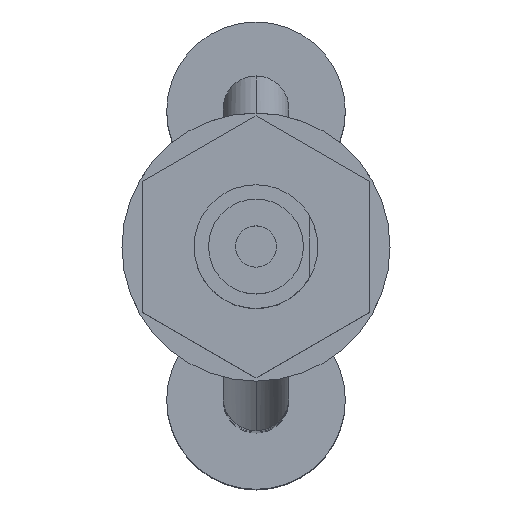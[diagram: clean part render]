
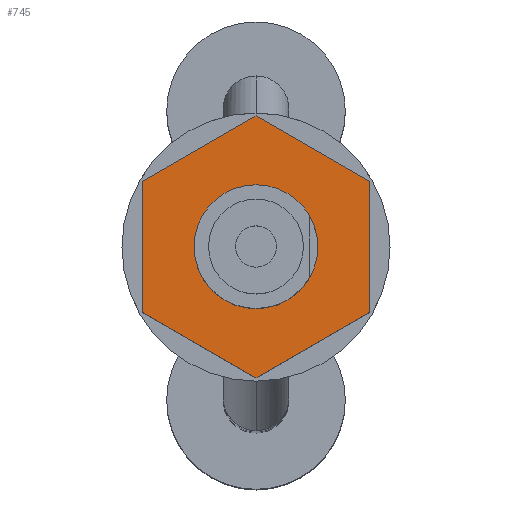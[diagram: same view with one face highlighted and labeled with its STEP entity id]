
A CAD part, top view. The second image highlights one B-rep face of the part: STEP entity #745.
In plain terms, the highlighted planar face has unit normal (0, 0, 1) as drawn and (-1, 0, 0) by its records, which use the part's own axes.
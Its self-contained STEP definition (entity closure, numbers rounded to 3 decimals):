
#667 = EDGE_CURVE ( 'NONE', #668, #669, #2203, .T. ) ;
#668 = VERTEX_POINT ( 'NONE', #2195 ) ;
#669 = VERTEX_POINT ( 'NONE', #2194 ) ;
#745 = ADVANCED_FACE ( 'NONE', ( #2270, #2269 ), #2275, .F. ) ;
#746 = EDGE_LOOP ( 'NONE', ( #747, #751, #754, #757, #760, #763 ) ) ;
#747 = ORIENTED_EDGE ( 'NONE', *, *, #748, .T. ) ;
#748 = EDGE_CURVE ( 'NONE', #749, #750, #2328, .T. ) ;
#749 = VERTEX_POINT ( 'NONE', #2324 ) ;
#750 = VERTEX_POINT ( 'NONE', #2323 ) ;
#751 = ORIENTED_EDGE ( 'NONE', *, *, #752, .T. ) ;
#752 = EDGE_CURVE ( 'NONE', #750, #753, #2322, .T. ) ;
#753 = VERTEX_POINT ( 'NONE', #2318 ) ;
#754 = ORIENTED_EDGE ( 'NONE', *, *, #755, .T. ) ;
#755 = EDGE_CURVE ( 'NONE', #753, #756, #2317, .T. ) ;
#756 = VERTEX_POINT ( 'NONE', #2313 ) ;
#757 = ORIENTED_EDGE ( 'NONE', *, *, #758, .T. ) ;
#758 = EDGE_CURVE ( 'NONE', #756, #759, #2312, .T. ) ;
#759 = VERTEX_POINT ( 'NONE', #2308 ) ;
#760 = ORIENTED_EDGE ( 'NONE', *, *, #761, .T. ) ;
#761 = EDGE_CURVE ( 'NONE', #759, #762, #2307, .T. ) ;
#762 = VERTEX_POINT ( 'NONE', #2303 ) ;
#763 = ORIENTED_EDGE ( 'NONE', *, *, #764, .T. ) ;
#764 = EDGE_CURVE ( 'NONE', #762, #749, #2302, .T. ) ;
#765 = EDGE_LOOP ( 'NONE', ( #766, #767 ) ) ;
#766 = ORIENTED_EDGE ( 'NONE', *, *, #667, .F. ) ;
#767 = ORIENTED_EDGE ( 'NONE', *, *, #768, .F. ) ;
#768 = EDGE_CURVE ( 'NONE', #669, #668, #2362, .T. ) ;
#2194 = CARTESIAN_POINT ( 'NONE',  ( 5., -1.5, 0. ) ) ;
#2195 = CARTESIAN_POINT ( 'NONE',  ( 5., 1.5, 0. ) ) ;
#2196 = DIRECTION ( 'NONE',  ( 0., -1., 0. ) ) ;
#2197 = DIRECTION ( 'NONE',  ( -1., 0., 0. ) ) ;
#2198 = CARTESIAN_POINT ( 'NONE',  ( 5., 0., 0. ) ) ;
#2199 = AXIS2_PLACEMENT_3D ( 'NONE', #2198, #2197, #2196 ) ;
#2203 = CIRCLE ( 'NONE', #2199, 1.5 ) ;
#2269 = FACE_BOUND ( 'NONE', #765, .T. ) ;
#2270 = FACE_OUTER_BOUND ( 'NONE', #746, .T. ) ;
#2275 = PLANE ( 'NONE',  #2332 ) ;
#2302 = LINE ( 'NONE', #2365, #2364 ) ;
#2303 = CARTESIAN_POINT ( 'NONE',  ( 5., -1.588, 2.75 ) ) ;
#2304 = DIRECTION ( 'NONE',  ( 0., 0.5, 0.866 ) ) ;
#2305 = VECTOR ( 'NONE', #2304, 1000. ) ;
#2306 = CARTESIAN_POINT ( 'NONE',  ( 5., -3.175, 0. ) ) ;
#2307 = LINE ( 'NONE', #2306, #2305 ) ;
#2308 = CARTESIAN_POINT ( 'NONE',  ( 5., -3.175, 0. ) ) ;
#2309 = DIRECTION ( 'NONE',  ( 0., -0.5, 0.866 ) ) ;
#2310 = VECTOR ( 'NONE', #2309, 1000. ) ;
#2311 = CARTESIAN_POINT ( 'NONE',  ( 5., -1.588, -2.75 ) ) ;
#2312 = LINE ( 'NONE', #2311, #2310 ) ;
#2313 = CARTESIAN_POINT ( 'NONE',  ( 5., -1.588, -2.75 ) ) ;
#2314 = DIRECTION ( 'NONE',  ( 0., -1., 0. ) ) ;
#2315 = VECTOR ( 'NONE', #2314, 1000. ) ;
#2316 = CARTESIAN_POINT ( 'NONE',  ( 5., 1.588, -2.75 ) ) ;
#2317 = LINE ( 'NONE', #2316, #2315 ) ;
#2318 = CARTESIAN_POINT ( 'NONE',  ( 5., 1.588, -2.75 ) ) ;
#2319 = DIRECTION ( 'NONE',  ( 0., -0.5, -0.866 ) ) ;
#2320 = VECTOR ( 'NONE', #2319, 1000. ) ;
#2321 = CARTESIAN_POINT ( 'NONE',  ( 5., 3.175, 0. ) ) ;
#2322 = LINE ( 'NONE', #2321, #2320 ) ;
#2323 = CARTESIAN_POINT ( 'NONE',  ( 5., 3.175, 0. ) ) ;
#2324 = CARTESIAN_POINT ( 'NONE',  ( 5., 1.588, 2.75 ) ) ;
#2325 = DIRECTION ( 'NONE',  ( 0., 0.5, -0.866 ) ) ;
#2326 = VECTOR ( 'NONE', #2325, 1000. ) ;
#2327 = CARTESIAN_POINT ( 'NONE',  ( 5., 1.588, 2.75 ) ) ;
#2328 = LINE ( 'NONE', #2327, #2326 ) ;
#2329 = DIRECTION ( 'NONE',  ( 0., 1., 0. ) ) ;
#2330 = DIRECTION ( 'NONE',  ( 1., 0., 0. ) ) ;
#2331 = CARTESIAN_POINT ( 'NONE',  ( 5., 0., 5.5 ) ) ;
#2332 = AXIS2_PLACEMENT_3D ( 'NONE', #2331, #2330, #2329 ) ;
#2358 = DIRECTION ( 'NONE',  ( 0., -1., 0. ) ) ;
#2359 = DIRECTION ( 'NONE',  ( -1., 0., 0. ) ) ;
#2360 = CARTESIAN_POINT ( 'NONE',  ( 5., 0., 0. ) ) ;
#2361 = AXIS2_PLACEMENT_3D ( 'NONE', #2360, #2359, #2358 ) ;
#2362 = CIRCLE ( 'NONE', #2361, 1.5 ) ;
#2363 = DIRECTION ( 'NONE',  ( 0., 1., 0. ) ) ;
#2364 = VECTOR ( 'NONE', #2363, 1000. ) ;
#2365 = CARTESIAN_POINT ( 'NONE',  ( 5., -1.588, 2.75 ) ) ;
